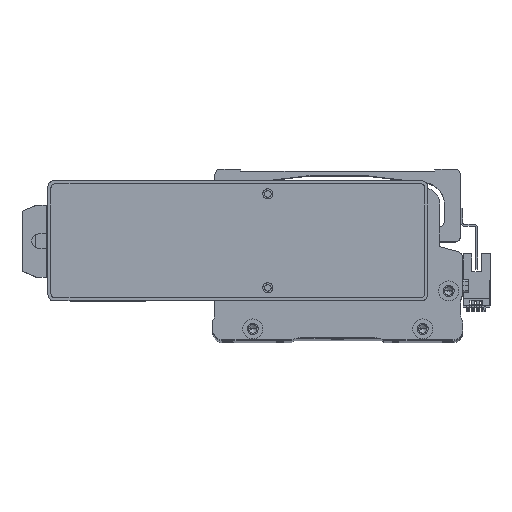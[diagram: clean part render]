
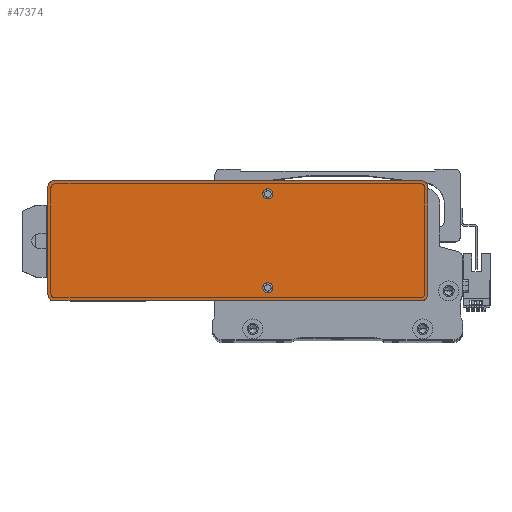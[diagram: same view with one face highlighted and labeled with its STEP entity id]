
A CAD part, top view. The second image highlights one B-rep face of the part: STEP entity #47374.
In plain terms, the highlighted planar face has unit normal (0, 0, 1) as drawn and (0, 0, -1) by its records, which use the part's own axes.
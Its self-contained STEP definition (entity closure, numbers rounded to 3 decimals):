
#816 = ORIENTED_EDGE ( 'NONE', *, *, #21859, .F. ) ;
#1394 = DIRECTION ( 'NONE',  ( 1., 0., 0. ) ) ;
#1902 = CARTESIAN_POINT ( 'NONE',  ( 92., 30., 0. ) ) ;
#2355 = DIRECTION ( 'NONE',  ( 0., 0., -1. ) ) ;
#2605 = EDGE_CURVE ( 'NONE', #28961, #4118, #3894, .T. ) ;
#3241 = CIRCLE ( 'NONE', #62321, 2.5 ) ;
#3286 = ORIENTED_EDGE ( 'NONE', *, *, #66195, .T. ) ;
#3894 = CIRCLE ( 'NONE', #35102, 2.5 ) ;
#4118 = VERTEX_POINT ( 'NONE', #60531 ) ;
#6914 = LINE ( 'NONE', #20072, #69404 ) ;
#7028 = VECTOR ( 'NONE', #73730, 1000. ) ;
#7538 = CARTESIAN_POINT ( 'NONE',  ( 95., -30., 0. ) ) ;
#8670 = CARTESIAN_POINT ( 'NONE',  ( -15., 23.5, 0. ) ) ;
#8718 = CARTESIAN_POINT ( 'NONE',  ( 0., 0., 0. ) ) ;
#11688 = CARTESIAN_POINT ( 'NONE',  ( 95., -30., 0. ) ) ;
#12471 = CIRCLE ( 'NONE', #41048, 3. ) ;
#12727 = CARTESIAN_POINT ( 'NONE',  ( -92., 27., 0. ) ) ;
#12820 = CIRCLE ( 'NONE', #31074, 2.5 ) ;
#13131 = FACE_OUTER_BOUND ( 'NONE', #41561, .T. ) ;
#14730 = DIRECTION ( 'NONE',  ( -1., 0., 0. ) ) ;
#14782 = DIRECTION ( 'NONE',  ( 0., 0., 1. ) ) ;
#15028 = FACE_BOUND ( 'NONE', #20281, .T. ) ;
#15332 = DIRECTION ( 'NONE',  ( 0., 0., -1. ) ) ;
#17724 = VERTEX_POINT ( 'NONE', #62746 ) ;
#18388 = VERTEX_POINT ( 'NONE', #28539 ) ;
#18654 = CARTESIAN_POINT ( 'NONE',  ( -17.5, -23.5, 0. ) ) ;
#18822 = DIRECTION ( 'NONE',  ( 1., 0., 0. ) ) ;
#19430 = CARTESIAN_POINT ( 'NONE',  ( -15., -23.5, 0. ) ) ;
#20072 = CARTESIAN_POINT ( 'NONE',  ( -95., -30., 0. ) ) ;
#20281 = EDGE_LOOP ( 'NONE', ( #48609, #60764 ) ) ;
#20555 = ORIENTED_EDGE ( 'NONE', *, *, #26766, .F. ) ;
#21859 = EDGE_CURVE ( 'NONE', #29139, #54345, #22633, .T. ) ;
#22633 = LINE ( 'NONE', #53472, #24543 ) ;
#23427 = VERTEX_POINT ( 'NONE', #47880 ) ;
#24051 = CARTESIAN_POINT ( 'NONE',  ( 92., -30., 0. ) ) ;
#24543 = VECTOR ( 'NONE', #29379, 1000. ) ;
#25536 = DIRECTION ( 'NONE',  ( -1., 0., 0. ) ) ;
#26766 = EDGE_CURVE ( 'NONE', #4118, #28961, #58651, .T. ) ;
#27037 = AXIS2_PLACEMENT_3D ( 'NONE', #34763, #77159, #40871 ) ;
#28305 = DIRECTION ( 'NONE',  ( 0., 0., -1. ) ) ;
#28539 = CARTESIAN_POINT ( 'NONE',  ( -95., -27., 0. ) ) ;
#28961 = VERTEX_POINT ( 'NONE', #18654 ) ;
#29139 = VERTEX_POINT ( 'NONE', #1902 ) ;
#29379 = DIRECTION ( 'NONE',  ( -1., 0., 0. ) ) ;
#29676 = VERTEX_POINT ( 'NONE', #69865 ) ;
#30875 = CARTESIAN_POINT ( 'NONE',  ( -95., 27., 0. ) ) ;
#31074 = AXIS2_PLACEMENT_3D ( 'NONE', #38675, #2355, #44673 ) ;
#32747 = PLANE ( 'NONE',  #45202 ) ;
#33371 = AXIS2_PLACEMENT_3D ( 'NONE', #74012, #37715, #1394 ) ;
#33700 = EDGE_CURVE ( 'NONE', #48608, #23427, #72571, .T. ) ;
#34763 = CARTESIAN_POINT ( 'NONE',  ( 92., -27., 0. ) ) ;
#35102 = AXIS2_PLACEMENT_3D ( 'NONE', #64530, #28305, #70683 ) ;
#35489 = EDGE_CURVE ( 'NONE', #17724, #41230, #39232, .T. ) ;
#35857 = ORIENTED_EDGE ( 'NONE', *, *, #39165, .T. ) ;
#36034 = DIRECTION ( 'NONE',  ( 0., 1., 0. ) ) ;
#37715 = DIRECTION ( 'NONE',  ( 0., 0., -1. ) ) ;
#38675 = CARTESIAN_POINT ( 'NONE',  ( -15., 23.5, 0. ) ) ;
#39165 = EDGE_CURVE ( 'NONE', #41342, #54345, #41370, .T. ) ;
#39232 = LINE ( 'NONE', #7538, #7028 ) ;
#40105 = EDGE_LOOP ( 'NONE', ( #65409, #20555 ) ) ;
#40871 = DIRECTION ( 'NONE',  ( 1., 0., 0. ) ) ;
#41048 = AXIS2_PLACEMENT_3D ( 'NONE', #51579, #15332, #57652 ) ;
#41230 = VERTEX_POINT ( 'NONE', #24051 ) ;
#41342 = VERTEX_POINT ( 'NONE', #30875 ) ;
#41370 = CIRCLE ( 'NONE', #59132, 3. ) ;
#41561 = EDGE_LOOP ( 'NONE', ( #54956, #68960, #75520, #3286, #50152, #35857, #816, #52900 ) ) ;
#42399 = CARTESIAN_POINT ( 'NONE',  ( -12.5, 23.5, 0. ) ) ;
#43075 = CIRCLE ( 'NONE', #27037, 3. ) ;
#43652 = EDGE_CURVE ( 'NONE', #48608, #41230, #43075, .T. ) ;
#44673 = DIRECTION ( 'NONE',  ( -1., 0., 0. ) ) ;
#45202 = AXIS2_PLACEMENT_3D ( 'NONE', #8718, #14782, #57075 ) ;
#47374 = ADVANCED_FACE ( 'NONE', ( #15028, #13131, #75687 ), #32747, .F. ) ;
#47880 = CARTESIAN_POINT ( 'NONE',  ( 95., 27., 0. ) ) ;
#48608 = VERTEX_POINT ( 'NONE', #66173 ) ;
#48609 = ORIENTED_EDGE ( 'NONE', *, *, #62226, .F. ) ;
#50152 = ORIENTED_EDGE ( 'NONE', *, *, #66427, .F. ) ;
#50969 = DIRECTION ( 'NONE',  ( 0., 0., -1. ) ) ;
#51579 = CARTESIAN_POINT ( 'NONE',  ( 92., 27., 0. ) ) ;
#52656 = AXIS2_PLACEMENT_3D ( 'NONE', #19430, #61757, #25536 ) ;
#52900 = ORIENTED_EDGE ( 'NONE', *, *, #78433, .T. ) ;
#53472 = CARTESIAN_POINT ( 'NONE',  ( 95., 30., 0. ) ) ;
#54345 = VERTEX_POINT ( 'NONE', #69998 ) ;
#54956 = ORIENTED_EDGE ( 'NONE', *, *, #33700, .F. ) ;
#55060 = DIRECTION ( 'NONE',  ( 0., 0., -1. ) ) ;
#56320 = DIRECTION ( 'NONE',  ( 0., -1., 0. ) ) ;
#56396 = VECTOR ( 'NONE', #36034, 1000. ) ;
#57075 = DIRECTION ( 'NONE',  ( 1., 0., 0. ) ) ;
#57652 = DIRECTION ( 'NONE',  ( 1., 0., 0. ) ) ;
#58651 = CIRCLE ( 'NONE', #52656, 2.5 ) ;
#59132 = AXIS2_PLACEMENT_3D ( 'NONE', #12727, #55060, #18822 ) ;
#60531 = CARTESIAN_POINT ( 'NONE',  ( -12.5, -23.5, 0. ) ) ;
#60724 = VERTEX_POINT ( 'NONE', #42399 ) ;
#60764 = ORIENTED_EDGE ( 'NONE', *, *, #72496, .F. ) ;
#61757 = DIRECTION ( 'NONE',  ( 0., 0., -1. ) ) ;
#62226 = EDGE_CURVE ( 'NONE', #29676, #60724, #12820, .T. ) ;
#62321 = AXIS2_PLACEMENT_3D ( 'NONE', #8670, #50969, #14730 ) ;
#62746 = CARTESIAN_POINT ( 'NONE',  ( -92., -30., 0. ) ) ;
#64530 = CARTESIAN_POINT ( 'NONE',  ( -15., -23.5, 0. ) ) ;
#65409 = ORIENTED_EDGE ( 'NONE', *, *, #2605, .F. ) ;
#66173 = CARTESIAN_POINT ( 'NONE',  ( 95., -27., 0. ) ) ;
#66195 = EDGE_CURVE ( 'NONE', #17724, #18388, #76117, .T. ) ;
#66427 = EDGE_CURVE ( 'NONE', #41342, #18388, #6914, .T. ) ;
#68960 = ORIENTED_EDGE ( 'NONE', *, *, #43652, .T. ) ;
#69404 = VECTOR ( 'NONE', #56320, 1000. ) ;
#69865 = CARTESIAN_POINT ( 'NONE',  ( -17.5, 23.5, 0. ) ) ;
#69998 = CARTESIAN_POINT ( 'NONE',  ( -92., 30., 0. ) ) ;
#70683 = DIRECTION ( 'NONE',  ( -1., 0., 0. ) ) ;
#72496 = EDGE_CURVE ( 'NONE', #60724, #29676, #3241, .T. ) ;
#72571 = LINE ( 'NONE', #11688, #56396 ) ;
#73730 = DIRECTION ( 'NONE',  ( 1., 0., 0. ) ) ;
#74012 = CARTESIAN_POINT ( 'NONE',  ( -92., -27., 0. ) ) ;
#75520 = ORIENTED_EDGE ( 'NONE', *, *, #35489, .F. ) ;
#75687 = FACE_BOUND ( 'NONE', #40105, .T. ) ;
#76117 = CIRCLE ( 'NONE', #33371, 3. ) ;
#77159 = DIRECTION ( 'NONE',  ( 0., 0., -1. ) ) ;
#78433 = EDGE_CURVE ( 'NONE', #29139, #23427, #12471, .T. ) ;
